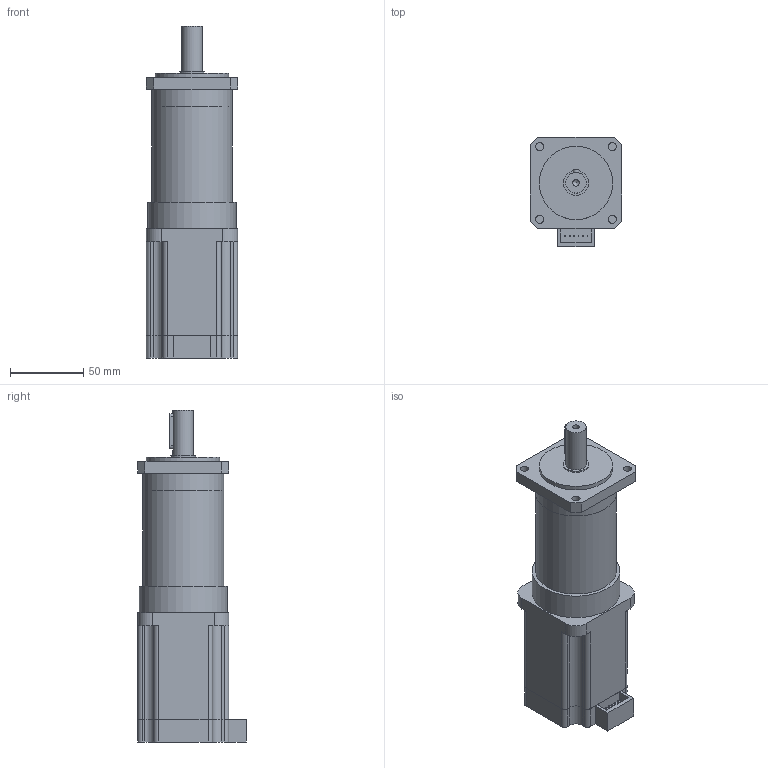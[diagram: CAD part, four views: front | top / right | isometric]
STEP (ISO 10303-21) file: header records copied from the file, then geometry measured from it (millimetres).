
FILE_DESCRIPTION(/* description */ (''),/* implementation_level */ '2;1');
FILE_NAME(/* name */ '62PG015-D45-0488.stp',/* time_stamp */ '2018-08-28T09:40:10+08:00',/* author */ (''),/* organization */ (''),/* preprocessor_version */ 'ST-DEVELOPER v11',/* originating_system */ 'SIEMENS UGS NX 6.0',/* authorisation */ '');
FILE_SCHEMA (('CONFIG_CONTROL_DESIGN'));
Length unit declared in the file: millimetre
Products named in the file (1): 62PG015-D45-0488
Bounding box: 62 x 74 x 226 mm (x, y, z)
Volume: 577970.3 mm3; surface area: 64472.7 mm2
Topology: 3 solids, 3 shells, 132 faces, 337 edges, 225 vertices
Faces by surface type: plane 90, cylinder 41, cone 1
Full cylindrical faces by diameter (mm): 4.5 x1, 5.5 x4, 14 x1, 17 x1, 50 x1, 55 x2, 60 x1
Entity records: 4060 total; most frequent: CARTESIAN_POINT 738, DIRECTION 666, ORIENTED_EDGE 644, EDGE_CURVE 322, LINE 240, VECTOR 240, VERTEX_POINT 223, AXIS2_PLACEMENT_3D 213
